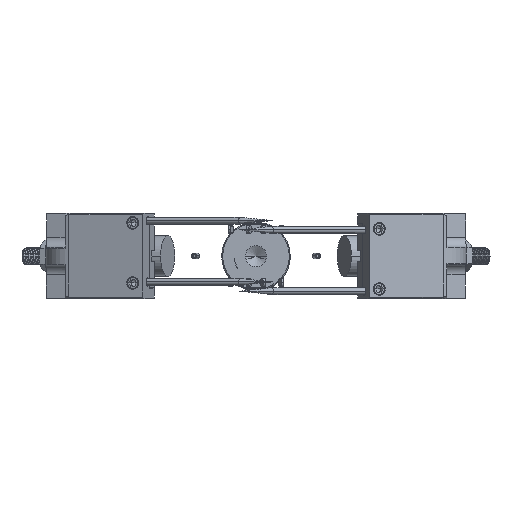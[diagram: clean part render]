
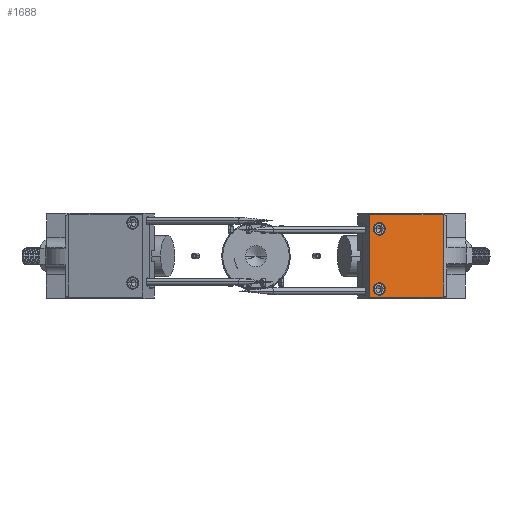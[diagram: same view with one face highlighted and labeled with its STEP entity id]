
A CAD part, top view. The second image highlights one B-rep face of the part: STEP entity #1688.
In plain terms, the highlighted planar face has unit normal (0.342, 0, 0.94).
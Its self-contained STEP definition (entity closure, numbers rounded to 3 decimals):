
#300=FACE_BOUND('',#3826,.T.);
#301=FACE_BOUND('',#3827,.T.);
#302=FACE_BOUND('',#3828,.T.);
#710=B_SPLINE_CURVE_WITH_KNOTS('',3,(#28808,#28809,#28810,#28811),
 .UNSPECIFIED.,.F.,.F.,(4,4),(0.,1.),.UNSPECIFIED.);
#711=B_SPLINE_CURVE_WITH_KNOTS('',3,(#28813,#28814,#28815,#28816),
 .UNSPECIFIED.,.F.,.F.,(4,4),(0.,1.),.UNSPECIFIED.);
#985=PLANE('',#16428);
#1688=ADVANCED_FACE('',(#300,#301,#302),#985,.T.);
#3826=EDGE_LOOP('',(#9067,#9068,#9069,#9070,#9071,#9072));
#3827=EDGE_LOOP('',(#9073,#9074));
#3828=EDGE_LOOP('',(#9075,#9076));
#4969=LINE('',#28856,#6187);
#4971=LINE('',#28860,#6189);
#4973=LINE('',#28864,#6191);
#4974=LINE('',#28866,#6192);
#6187=VECTOR('',#19707,1.);
#6189=VECTOR('',#19711,1.);
#6191=VECTOR('',#19715,1.);
#6192=VECTOR('',#19718,1.);
#9067=ORIENTED_EDGE('',*,*,#13646,.T.);
#9068=ORIENTED_EDGE('',*,*,#13647,.T.);
#9069=ORIENTED_EDGE('',*,*,#13622,.F.);
#9070=ORIENTED_EDGE('',*,*,#13642,.T.);
#9071=ORIENTED_EDGE('',*,*,#13623,.F.);
#9072=ORIENTED_EDGE('',*,*,#13644,.T.);
#9073=ORIENTED_EDGE('',*,*,#12806,.T.);
#9074=ORIENTED_EDGE('',*,*,#13641,.T.);
#9075=ORIENTED_EDGE('',*,*,#12810,.T.);
#9076=ORIENTED_EDGE('',*,*,#13640,.T.);
#11372=VERTEX_POINT('',#26981);
#11373=VERTEX_POINT('',#26983);
#11376=VERTEX_POINT('',#26990);
#11377=VERTEX_POINT('',#26992);
#11854=VERTEX_POINT('',#28800);
#11856=VERTEX_POINT('',#28807);
#11857=VERTEX_POINT('',#28817);
#11858=VERTEX_POINT('',#28818);
#11864=VERTEX_POINT('',#28859);
#11865=VERTEX_POINT('',#28863);
#12806=EDGE_CURVE('',#11373,#11372,#14829,.T.);
#12810=EDGE_CURVE('',#11377,#11376,#14831,.T.);
#13622=EDGE_CURVE('',#11856,#11854,#710,.T.);
#13623=EDGE_CURVE('',#11857,#11858,#711,.T.);
#13640=EDGE_CURVE('',#11376,#11377,#15125,.T.);
#13641=EDGE_CURVE('',#11372,#11373,#15126,.T.);
#13642=EDGE_CURVE('',#11856,#11858,#4969,.T.);
#13644=EDGE_CURVE('',#11857,#11864,#4971,.T.);
#13646=EDGE_CURVE('',#11864,#11865,#4973,.T.);
#13647=EDGE_CURVE('',#11865,#11854,#4974,.T.);
#14829=CIRCLE('',#15763,1.85);
#14831=CIRCLE('',#15766,1.85);
#15125=CIRCLE('',#16420,1.85);
#15126=CIRCLE('',#16422,1.85);
#15763=AXIS2_PLACEMENT_3D('',#26982,#17877,#17878);
#15766=AXIS2_PLACEMENT_3D('',#26991,#17885,#17886);
#16420=AXIS2_PLACEMENT_3D('',#28852,#19699,#19700);
#16422=AXIS2_PLACEMENT_3D('',#28854,#19703,#19704);
#16428=AXIS2_PLACEMENT_3D('',#28868,#19721,#19722);
#17877=DIRECTION('',(-0.342,0.,-0.94));
#17878=DIRECTION('',(0.94,0.,-0.342));
#17885=DIRECTION('',(-0.342,0.,-0.94));
#17886=DIRECTION('',(0.94,0.,-0.342));
#19699=DIRECTION('',(-0.342,0.,-0.94));
#19700=DIRECTION('',(0.94,0.,-0.342));
#19703=DIRECTION('',(-0.342,0.,-0.94));
#19704=DIRECTION('',(0.94,0.,-0.342));
#19707=DIRECTION('',(0.,1.,0.));
#19711=DIRECTION('',(-0.94,0.,0.342));
#19715=DIRECTION('',(0.,-1.,0.));
#19718=DIRECTION('',(0.94,0.,-0.342));
#19721=DIRECTION('',(0.342,0.,0.94));
#19722=DIRECTION('',(-0.94,0.,0.342));
#26981=CARTESIAN_POINT('',(34.288,7.9,-9.836));
#26982=CARTESIAN_POINT('',(36.026,7.9,-10.468));
#26983=CARTESIAN_POINT('',(37.764,7.9,-11.101));
#26990=CARTESIAN_POINT('',(34.288,-9.65,-9.836));
#26991=CARTESIAN_POINT('',(36.026,-9.65,-10.468));
#26992=CARTESIAN_POINT('',(37.764,-9.65,-11.101));
#28800=CARTESIAN_POINT('',(54.35,-12.,-17.138));
#28807=CARTESIAN_POINT('',(54.82,-11.988,-17.309));
#28808=CARTESIAN_POINT('',(54.82,-11.988,-17.309));
#28809=CARTESIAN_POINT('',(54.663,-11.996,-17.252));
#28810=CARTESIAN_POINT('',(54.507,-12.,-17.195));
#28811=CARTESIAN_POINT('',(54.35,-12.,-17.138));
#28813=CARTESIAN_POINT('',(54.35,12.,-17.138));
#28814=CARTESIAN_POINT('',(54.507,12.,-17.195));
#28815=CARTESIAN_POINT('',(54.663,11.996,-17.252));
#28816=CARTESIAN_POINT('',(54.82,11.988,-17.309));
#28817=CARTESIAN_POINT('',(54.35,12.,-17.138));
#28818=CARTESIAN_POINT('',(54.82,11.988,-17.309));
#28852=CARTESIAN_POINT('',(36.026,-9.65,-10.468));
#28854=CARTESIAN_POINT('',(36.026,7.9,-10.468));
#28856=CARTESIAN_POINT('',(54.82,9.987,-17.309));
#28859=CARTESIAN_POINT('',(33.207,12.,-9.442));
#28860=CARTESIAN_POINT('',(58.579,12.,-18.677));
#28863=CARTESIAN_POINT('',(33.207,-12.,-9.442));
#28864=CARTESIAN_POINT('',(33.207,9.987,-9.442));
#28866=CARTESIAN_POINT('',(58.579,-12.,-18.677));
#28868=CARTESIAN_POINT('',(58.579,9.987,-18.677));
